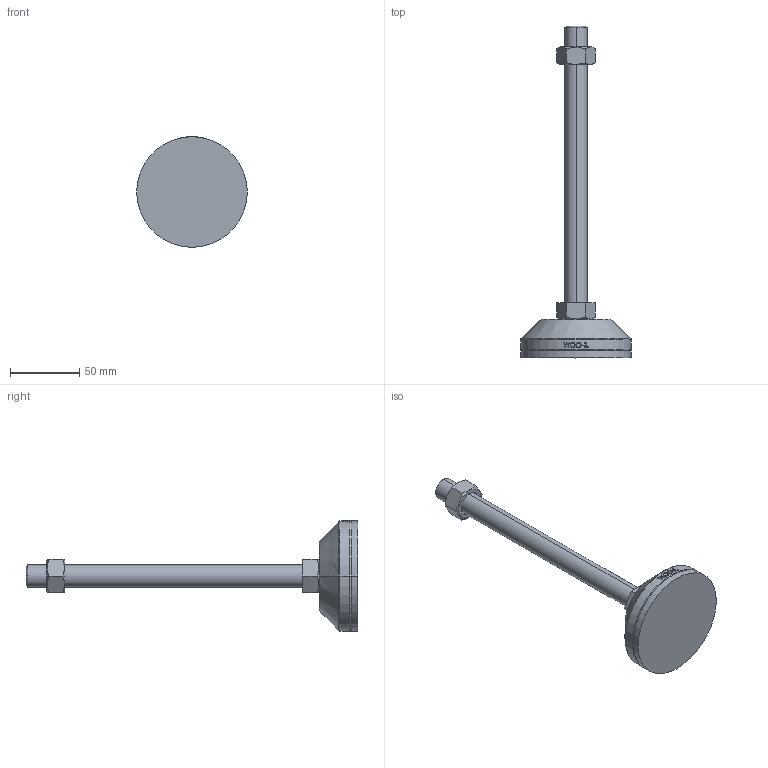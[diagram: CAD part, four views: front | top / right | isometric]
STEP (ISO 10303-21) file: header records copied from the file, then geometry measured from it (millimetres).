
FILE_DESCRIPTION (( 'STEP AP214' ), '1' );
FILE_NAME ('NHNR80-M16-200.step', '2021-01-25T06:21:53', ( '' ), ( '' ), 'SwSTEP 2.0', 'SolidWorks 2019', '' );
FILE_SCHEMA (( 'AUTOMOTIVE_DESIGN' ));
Length unit declared in the file: millimetre
Products named in the file (2): NHNR80-M16-200
Bounding box: 80 x 240 x 80 mm (x, y, z)
Volume: 165955.4 mm3; surface area: 39030.8 mm2
Topology: 4 solids, 4 shells, 105 faces, 239 edges, 152 vertices
Faces by surface type: plane 49, cylinder 18, bspline 16, cone 14, torus 8
Entity records: 4363 total; most frequent: CARTESIAN_POINT 2046, ORIENTED_EDGE 478, DIRECTION 429, EDGE_CURVE 239, AXIS2_PLACEMENT_3D 165, VERTEX_POINT 152, EDGE_LOOP 117, ADVANCED_FACE 105
